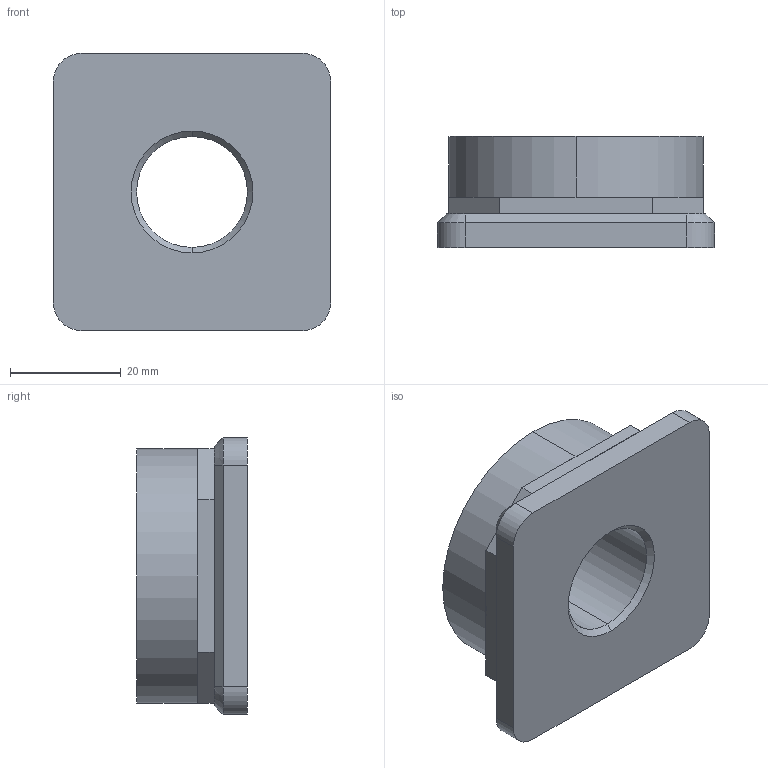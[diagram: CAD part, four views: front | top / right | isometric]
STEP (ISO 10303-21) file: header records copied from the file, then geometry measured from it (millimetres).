
FILE_DESCRIPTION (( 'STEP AP203' ), '1' );
FILE_NAME ('34670.W0051.step', '2017-06-26T08:14:06', ( 'User' ), ( '' ), 'SwSTEP 2.0', 'SolidWorks 2009', '' );
FILE_SCHEMA (( 'CONFIG_CONTROL_DESIGN' ));
Length unit declared in the file: millimetre
Products named in the file (1): 34670.W0051
Bounding box: 50 x 20 x 50 mm (x, y, z)
Volume: 32403.5 mm3; surface area: 8557.1 mm2
Topology: 1 solids, 1 shells, 39 faces, 90 edges, 54 vertices
Faces by surface type: plane 23, cone 8, cylinder 8
Entity records: 1167 total; most frequent: DIRECTION 196, CARTESIAN_POINT 184, ORIENTED_EDGE 180, EDGE_CURVE 90, AXIS2_PLACEMENT_3D 66, VECTOR 64, LINE 64, VERTEX_POINT 54
